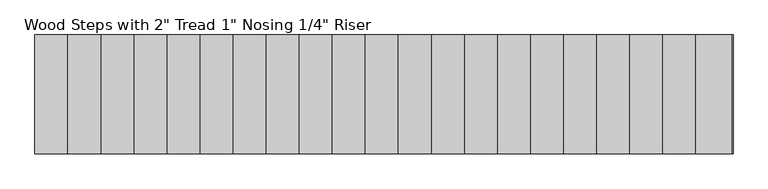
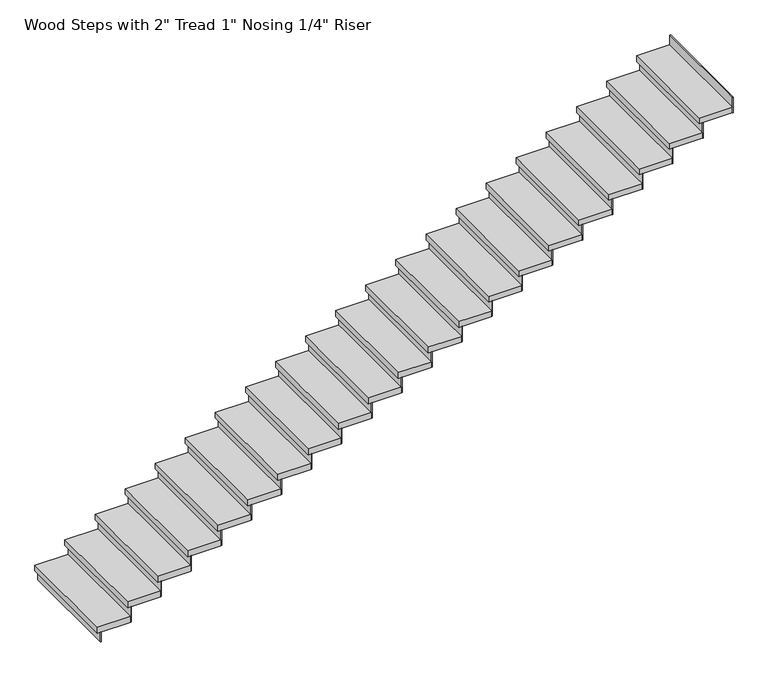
"""IFC4 building model written with IfcOpenShell, lengths in millimetres: stair flight geometry."""

from ifc_helpers import new_model, si_unit, frame, origin, origin_with_axes, place, context, project, spatial, polyline, outline, extrude, source, transform, mapped, element, save


def stair_flight_69a5bf32(model_context):
    return source(origin(), model_context, "Body", "SweptSolid", [
        extrude(outline(polyline([(-11429.6405791, 14638.5127053), (-11435.9905791, 14638.5127053), (-11435.9905791, 15552.9127053), (-11429.6405791, 15552.9127053), (-11429.6405791, 14638.5127053)])), origin_with_axes(), (0.0, 0.0, 1.0), 87.7454545),
        extrude(outline(polyline([(-11181.9905791, 15552.9127053), (-11181.9905791, 14638.5127053), (-11461.3905791, 14638.5127053), (-11461.3905791, 15552.9127053), (-11181.9905791, 15552.9127053)])), frame((0.0, 0.0, 87.7454545), z_axis=(0.0, 0.0, 1.0), x_axis=(1.0, 0.0, 0.0)), (0.0, 0.0, 1.0), 50.8),
        extrude(outline(polyline([(-11175.6405791, 14638.5127053), (-11181.9905791, 14638.5127053), (-11181.9905791, 15552.9127053), (-11175.6405791, 15552.9127053), (-11175.6405791, 14638.5127053)])), frame((0.0, 0.0, 87.7454545), z_axis=(0.0, 0.0, 1.0), x_axis=(1.0, 0.0, 0.0)), (0.0, 0.0, 1.0), 138.5454545),
        extrude(outline(polyline([(-10927.9905791, 15552.9127053), (-10927.9905791, 14638.5127053), (-11207.3905791, 14638.5127053), (-11207.3905791, 15552.9127053), (-10927.9905791, 15552.9127053)])), frame((0.0, 0.0, 226.2909091), z_axis=(0.0, 0.0, 1.0), x_axis=(1.0, 0.0, 0.0)), (0.0, 0.0, 1.0), 50.8),
        extrude(outline(polyline([(-10921.6405791, 14638.5127053), (-10927.9905791, 14638.5127053), (-10927.9905791, 15552.9127053), (-10921.6405791, 15552.9127053), (-10921.6405791, 14638.5127053)])), frame((0.0, 0.0, 226.2909091), z_axis=(0.0, 0.0, 1.0), x_axis=(1.0, 0.0, 0.0)), (0.0, 0.0, 1.0), 138.5454545),
        extrude(outline(polyline([(-10673.9905791, 15552.9127053), (-10673.9905791, 14638.5127053), (-10953.3905791, 14638.5127053), (-10953.3905791, 15552.9127053), (-10673.9905791, 15552.9127053)])), frame((0.0, 0.0, 364.8363636), z_axis=(0.0, 0.0, 1.0), x_axis=(1.0, 0.0, 0.0)), (0.0, 0.0, 1.0), 50.8),
        extrude(outline(polyline([(-10667.6405791, 14638.5127053), (-10673.9905791, 14638.5127053), (-10673.9905791, 15552.9127053), (-10667.6405791, 15552.9127053), (-10667.6405791, 14638.5127053)])), frame((0.0, 0.0, 364.8363636), z_axis=(0.0, 0.0, 1.0), x_axis=(1.0, 0.0, 0.0)), (0.0, 0.0, 1.0), 138.5454545),
        extrude(outline(polyline([(-10419.9905791, 15552.9127053), (-10419.9905791, 14638.5127053), (-10699.3905791, 14638.5127053), (-10699.3905791, 15552.9127053), (-10419.9905791, 15552.9127053)])), frame((0.0, 0.0, 503.3818182), z_axis=(0.0, 0.0, 1.0), x_axis=(1.0, 0.0, 0.0)), (0.0, 0.0, 1.0), 50.8),
        extrude(outline(polyline([(-10413.6405791, 14638.5127053), (-10419.9905791, 14638.5127053), (-10419.9905791, 15552.9127053), (-10413.6405791, 15552.9127053), (-10413.6405791, 14638.5127053)])), frame((0.0, 0.0, 503.3818182), z_axis=(0.0, 0.0, 1.0), x_axis=(1.0, 0.0, 0.0)), (0.0, 0.0, 1.0), 138.5454545),
        extrude(outline(polyline([(-10165.9905791, 15552.9127053), (-10165.9905791, 14638.5127053), (-10445.3905791, 14638.5127053), (-10445.3905791, 15552.9127053), (-10165.9905791, 15552.9127053)])), frame((0.0, 0.0, 641.9272727), z_axis=(0.0, 0.0, 1.0), x_axis=(1.0, 0.0, 0.0)), (0.0, 0.0, 1.0), 50.8),
        extrude(outline(polyline([(-10159.6405791, 14638.5127053), (-10165.9905791, 14638.5127053), (-10165.9905791, 15552.9127053), (-10159.6405791, 15552.9127053), (-10159.6405791, 14638.5127053)])), frame((0.0, 0.0, 641.9272727), z_axis=(0.0, 0.0, 1.0), x_axis=(1.0, 0.0, 0.0)), (0.0, 0.0, 1.0), 138.5454545),
        extrude(outline(polyline([(-9911.9905791, 15552.9127053), (-9911.9905791, 14638.5127053), (-10191.3905791, 14638.5127053), (-10191.3905791, 15552.9127053), (-9911.9905791, 15552.9127053)])), frame((0.0, 0.0, 780.4727273), z_axis=(0.0, 0.0, 1.0), x_axis=(1.0, 0.0, 0.0)), (0.0, 0.0, 1.0), 50.8),
        extrude(outline(polyline([(-9905.6405791, 14638.5127053), (-9911.9905791, 14638.5127053), (-9911.9905791, 15552.9127053), (-9905.6405791, 15552.9127053), (-9905.6405791, 14638.5127053)])), frame((0.0, 0.0, 780.4727273), z_axis=(0.0, 0.0, 1.0), x_axis=(1.0, 0.0, 0.0)), (0.0, 0.0, 1.0), 138.5454545),
        extrude(outline(polyline([(-9657.9905791, 15552.9127053), (-9657.9905791, 14638.5127053), (-9937.3905791, 14638.5127053), (-9937.3905791, 15552.9127053), (-9657.9905791, 15552.9127053)])), frame((0.0, 0.0, 919.0181818), z_axis=(0.0, 0.0, 1.0), x_axis=(1.0, 0.0, 0.0)), (0.0, 0.0, 1.0), 50.8),
        extrude(outline(polyline([(-9651.6405791, 14638.5127053), (-9657.9905791, 14638.5127053), (-9657.9905791, 15552.9127053), (-9651.6405791, 15552.9127053), (-9651.6405791, 14638.5127053)])), frame((0.0, 0.0, 919.0181818), z_axis=(0.0, 0.0, 1.0), x_axis=(1.0, 0.0, 0.0)), (0.0, 0.0, 1.0), 138.5454545),
        extrude(outline(polyline([(-9403.9905791, 15552.9127053), (-9403.9905791, 14638.5127053), (-9683.3905791, 14638.5127053), (-9683.3905791, 15552.9127053), (-9403.9905791, 15552.9127053)])), frame((0.0, 0.0, 1057.5636364), z_axis=(0.0, 0.0, 1.0), x_axis=(1.0, 0.0, 0.0)), (0.0, 0.0, 1.0), 50.8),
        extrude(outline(polyline([(-9397.6405791, 14638.5127053), (-9403.9905791, 14638.5127053), (-9403.9905791, 15552.9127053), (-9397.6405791, 15552.9127053), (-9397.6405791, 14638.5127053)])), frame((0.0, 0.0, 1057.5636364), z_axis=(0.0, 0.0, 1.0), x_axis=(1.0, 0.0, 0.0)), (0.0, 0.0, 1.0), 138.5454545),
        extrude(outline(polyline([(-9149.9905791, 15552.9127053), (-9149.9905791, 14638.5127053), (-9429.3905791, 14638.5127053), (-9429.3905791, 15552.9127053), (-9149.9905791, 15552.9127053)])), frame((0.0, 0.0, 1196.1090909), z_axis=(0.0, 0.0, 1.0), x_axis=(1.0, 0.0, 0.0)), (0.0, 0.0, 1.0), 50.8),
        extrude(outline(polyline([(-9143.6405791, 14638.5127053), (-9149.9905791, 14638.5127053), (-9149.9905791, 15552.9127053), (-9143.6405791, 15552.9127053), (-9143.6405791, 14638.5127053)])), frame((0.0, 0.0, 1196.1090909), z_axis=(0.0, 0.0, 1.0), x_axis=(1.0, 0.0, 0.0)), (0.0, 0.0, 1.0), 138.5454545),
        extrude(outline(polyline([(-8895.9905791, 15552.9127053), (-8895.9905791, 14638.5127053), (-9175.3905791, 14638.5127053), (-9175.3905791, 15552.9127053), (-8895.9905791, 15552.9127053)])), frame((0.0, 0.0, 1334.6545455), z_axis=(0.0, 0.0, 1.0), x_axis=(1.0, 0.0, 0.0)), (0.0, 0.0, 1.0), 50.8),
        extrude(outline(polyline([(-8889.6405791, 14638.5127053), (-8895.9905791, 14638.5127053), (-8895.9905791, 15552.9127053), (-8889.6405791, 15552.9127053), (-8889.6405791, 14638.5127053)])), frame((0.0, 0.0, 1334.6545455), z_axis=(0.0, 0.0, 1.0), x_axis=(1.0, 0.0, 0.0)), (0.0, 0.0, 1.0), 138.5454545),
        extrude(outline(polyline([(-8641.9905791, 15552.9127053), (-8641.9905791, 14638.5127053), (-8921.3905791, 14638.5127053), (-8921.3905791, 15552.9127053), (-8641.9905791, 15552.9127053)])), frame((0.0, 0.0, 1473.2), z_axis=(0.0, 0.0, 1.0), x_axis=(1.0, 0.0, 0.0)), (0.0, 0.0, 1.0), 50.8),
        extrude(outline(polyline([(-8635.6405791, 14638.5127053), (-8641.9905791, 14638.5127053), (-8641.9905791, 15552.9127053), (-8635.6405791, 15552.9127053), (-8635.6405791, 14638.5127053)])), frame((0.0, 0.0, 1473.2), z_axis=(0.0, 0.0, 1.0), x_axis=(1.0, 0.0, 0.0)), (0.0, 0.0, 1.0), 138.5454545),
        extrude(outline(polyline([(-8387.9905791, 15552.9127053), (-8387.9905791, 14638.5127053), (-8667.3905791, 14638.5127053), (-8667.3905791, 15552.9127053), (-8387.9905791, 15552.9127053)])), frame((0.0, 0.0, 1611.7454545), z_axis=(0.0, 0.0, 1.0), x_axis=(1.0, 0.0, 0.0)), (0.0, 0.0, 1.0), 50.8),
        extrude(outline(polyline([(-8381.6405791, 14638.5127053), (-8387.9905791, 14638.5127053), (-8387.9905791, 15552.9127053), (-8381.6405791, 15552.9127053), (-8381.6405791, 14638.5127053)])), frame((0.0, 0.0, 1611.7454545), z_axis=(0.0, 0.0, 1.0), x_axis=(1.0, 0.0, 0.0)), (0.0, 0.0, 1.0), 138.5454545),
        extrude(outline(polyline([(-8133.9905791, 15552.9127053), (-8133.9905791, 14638.5127053), (-8413.3905791, 14638.5127053), (-8413.3905791, 15552.9127053), (-8133.9905791, 15552.9127053)])), frame((0.0, 0.0, 1750.2909091), z_axis=(0.0, 0.0, 1.0), x_axis=(1.0, 0.0, 0.0)), (0.0, 0.0, 1.0), 50.8),
        extrude(outline(polyline([(-8127.6405791, 14638.5127053), (-8133.9905791, 14638.5127053), (-8133.9905791, 15552.9127053), (-8127.6405791, 15552.9127053), (-8127.6405791, 14638.5127053)])), frame((0.0, 0.0, 1750.2909091), z_axis=(0.0, 0.0, 1.0), x_axis=(1.0, 0.0, 0.0)), (0.0, 0.0, 1.0), 138.5454545),
        extrude(outline(polyline([(-7879.9905791, 15552.9127053), (-7879.9905791, 14638.5127053), (-8159.3905791, 14638.5127053), (-8159.3905791, 15552.9127053), (-7879.9905791, 15552.9127053)])), frame((0.0, 0.0, 1888.8363636), z_axis=(0.0, 0.0, 1.0), x_axis=(1.0, 0.0, 0.0)), (0.0, 0.0, 1.0), 50.8),
        extrude(outline(polyline([(-7873.6405791, 14638.5127053), (-7879.9905791, 14638.5127053), (-7879.9905791, 15552.9127053), (-7873.6405791, 15552.9127053), (-7873.6405791, 14638.5127053)])), frame((0.0, 0.0, 1888.8363636), z_axis=(0.0, 0.0, 1.0), x_axis=(1.0, 0.0, 0.0)), (0.0, 0.0, 1.0), 138.5454545),
        extrude(outline(polyline([(-7625.9905791, 15552.9127053), (-7625.9905791, 14638.5127053), (-7905.3905791, 14638.5127053), (-7905.3905791, 15552.9127053), (-7625.9905791, 15552.9127053)])), frame((0.0, 0.0, 2027.3818182), z_axis=(0.0, 0.0, 1.0), x_axis=(1.0, 0.0, 0.0)), (0.0, 0.0, 1.0), 50.8),
        extrude(outline(polyline([(-7619.6405791, 14638.5127053), (-7625.9905791, 14638.5127053), (-7625.9905791, 15552.9127053), (-7619.6405791, 15552.9127053), (-7619.6405791, 14638.5127053)])), frame((0.0, 0.0, 2027.3818182), z_axis=(0.0, 0.0, 1.0), x_axis=(1.0, 0.0, 0.0)), (0.0, 0.0, 1.0), 138.5454545),
        extrude(outline(polyline([(-7371.9905791, 15552.9127053), (-7371.9905791, 14638.5127053), (-7651.3905791, 14638.5127053), (-7651.3905791, 15552.9127053), (-7371.9905791, 15552.9127053)])), frame((0.0, 0.0, 2165.9272727), z_axis=(0.0, 0.0, 1.0), x_axis=(1.0, 0.0, 0.0)), (0.0, 0.0, 1.0), 50.8),
        extrude(outline(polyline([(-7365.6405791, 14638.5127053), (-7371.9905791, 14638.5127053), (-7371.9905791, 15552.9127053), (-7365.6405791, 15552.9127053), (-7365.6405791, 14638.5127053)])), frame((0.0, 0.0, 2165.9272727), z_axis=(0.0, 0.0, 1.0), x_axis=(1.0, 0.0, 0.0)), (0.0, 0.0, 1.0), 138.5454545),
        extrude(outline(polyline([(-7117.9905791, 15552.9127053), (-7117.9905791, 14638.5127053), (-7397.3905791, 14638.5127053), (-7397.3905791, 15552.9127053), (-7117.9905791, 15552.9127053)])), frame((0.0, 0.0, 2304.4727273), z_axis=(0.0, 0.0, 1.0), x_axis=(1.0, 0.0, 0.0)), (0.0, 0.0, 1.0), 50.8),
        extrude(outline(polyline([(-7111.6405791, 14638.5127053), (-7117.9905791, 14638.5127053), (-7117.9905791, 15552.9127053), (-7111.6405791, 15552.9127053), (-7111.6405791, 14638.5127053)])), frame((0.0, 0.0, 2304.4727273), z_axis=(0.0, 0.0, 1.0), x_axis=(1.0, 0.0, 0.0)), (0.0, 0.0, 1.0), 138.5454545),
        extrude(outline(polyline([(-6863.9905791, 15552.9127053), (-6863.9905791, 14638.5127053), (-7143.3905791, 14638.5127053), (-7143.3905791, 15552.9127053), (-6863.9905791, 15552.9127053)])), frame((0.0, 0.0, 2443.0181818), z_axis=(0.0, 0.0, 1.0), x_axis=(1.0, 0.0, 0.0)), (0.0, 0.0, 1.0), 50.8),
        extrude(outline(polyline([(-6857.6405791, 14638.5127053), (-6863.9905791, 14638.5127053), (-6863.9905791, 15552.9127053), (-6857.6405791, 15552.9127053), (-6857.6405791, 14638.5127053)])), frame((0.0, 0.0, 2443.0181818), z_axis=(0.0, 0.0, 1.0), x_axis=(1.0, 0.0, 0.0)), (0.0, 0.0, 1.0), 138.5454545),
        extrude(outline(polyline([(-6609.9905791, 15552.9127053), (-6609.9905791, 14638.5127053), (-6889.3905791, 14638.5127053), (-6889.3905791, 15552.9127053), (-6609.9905791, 15552.9127053)])), frame((0.0, 0.0, 2581.5636364), z_axis=(0.0, 0.0, 1.0), x_axis=(1.0, 0.0, 0.0)), (0.0, 0.0, 1.0), 50.8),
        extrude(outline(polyline([(-6603.6405791, 14638.5127053), (-6609.9905791, 14638.5127053), (-6609.9905791, 15552.9127053), (-6603.6405791, 15552.9127053), (-6603.6405791, 14638.5127053)])), frame((0.0, 0.0, 2581.5636364), z_axis=(0.0, 0.0, 1.0), x_axis=(1.0, 0.0, 0.0)), (0.0, 0.0, 1.0), 138.5454545),
        extrude(outline(polyline([(-6355.9905791, 15552.9127053), (-6355.9905791, 14638.5127053), (-6635.3905791, 14638.5127053), (-6635.3905791, 15552.9127053), (-6355.9905791, 15552.9127053)])), frame((0.0, 0.0, 2720.1090909), z_axis=(0.0, 0.0, 1.0), x_axis=(1.0, 0.0, 0.0)), (0.0, 0.0, 1.0), 50.8),
        extrude(outline(polyline([(-6349.6405791, 14638.5127053), (-6355.9905791, 14638.5127053), (-6355.9905791, 15552.9127053), (-6349.6405791, 15552.9127053), (-6349.6405791, 14638.5127053)])), frame((0.0, 0.0, 2720.1090909), z_axis=(0.0, 0.0, 1.0), x_axis=(1.0, 0.0, 0.0)), (0.0, 0.0, 1.0), 138.5454545),
        extrude(outline(polyline([(-6095.6405791, 14638.5127053), (-6101.9905791, 14638.5127053), (-6101.9905791, 15552.9127053), (-6095.6405791, 15552.9127053), (-6095.6405791, 14638.5127053)])), frame((0.0, 0.0, 2858.6545455), z_axis=(0.0, 0.0, 1.0), x_axis=(1.0, 0.0, 0.0)), (0.0, 0.0, 1.0), 138.5454545),
        extrude(outline(polyline([(-6101.9905791, 15552.9127053), (-6101.9905791, 14638.5127053), (-6381.3905791, 14638.5127053), (-6381.3905791, 15552.9127053), (-6101.9905791, 15552.9127053)])), frame((0.0, 0.0, 2858.6545455), z_axis=(0.0, 0.0, 1.0), x_axis=(1.0, 0.0, 0.0)), (0.0, 0.0, 1.0), 50.8),
    ])


if __name__ == "__main__":
    model = new_model("IFC4")
    model_context = context("Model", 3, world=origin())
    ifc_project = project(units=[si_unit("LENGTHUNIT", "METRE", prefix="MILLI")], contexts=[model_context])
    site = spatial("IfcSite", under=ifc_project)
    building = spatial("IfcBuilding", under=site)
    placement = place(None, origin())
    stair_flight_shape = stair_flight_69a5bf32(model_context)
    element("IfcStairFlight", 1, ObjectType="Wood Steps with 2\" Tread 1\" Nosing 1/4\" Riser", at=placement, inside=building, context=model_context, shape_type="MappedRepresentation", body=[
        mapped(stair_flight_shape, transform((0.0, 0.0, 0.0), x_axis=(1.0, 0.0, 0.0), y_axis=(0.0, 1.0, 0.0), z_axis=(0.0, 0.0, 1.0))),
    ])
    save(model, "model.ifc")
